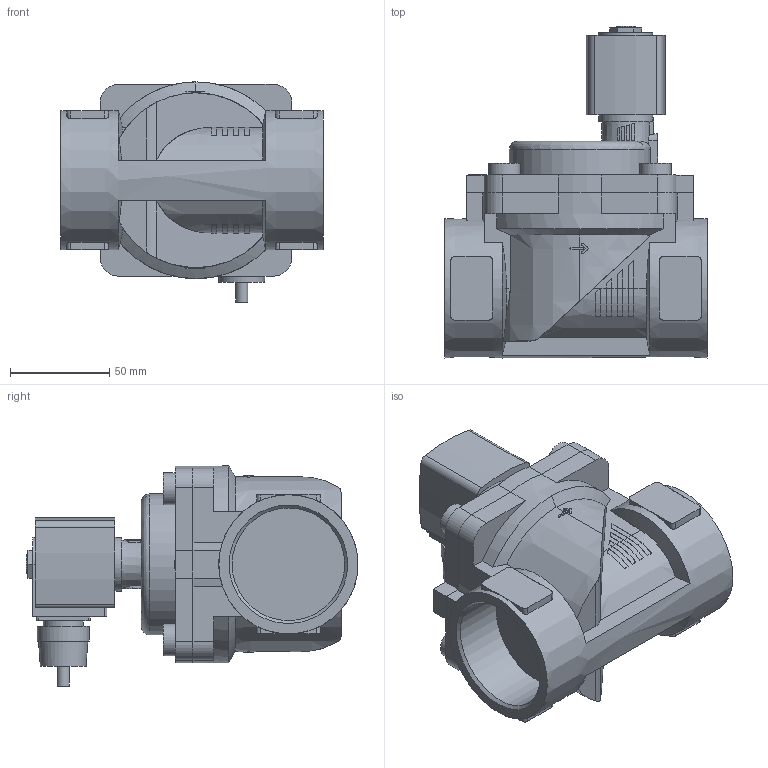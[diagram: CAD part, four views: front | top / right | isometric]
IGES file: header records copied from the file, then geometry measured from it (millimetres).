
Start section: Data from Parasolid IGES Translator 26.0.171, Copyright(c) 2006 Siemens PLM Software. All Rights Reserved.
Global section: file name: 6281-379378-2_2-Way_Solenoid_Valve__Servo-assisted__General_Purpose.igs; native system: By Siemens PLM Incorporated; preprocessor: XPlus GENERIC/IGES 26.0.171; author: Noname; organization: Noname; date: 20240906.101259; units: millimetre
Bounding box: 132 x 167 x 110.8 mm (x, y, z)
Surface area: 106607.3 mm2 (no closed solid volume)
Topology: 0 solids, 0 shells, 334 faces, 1792 edges, 1778 vertices
Faces by surface type: extrusion 201, revolution 133
